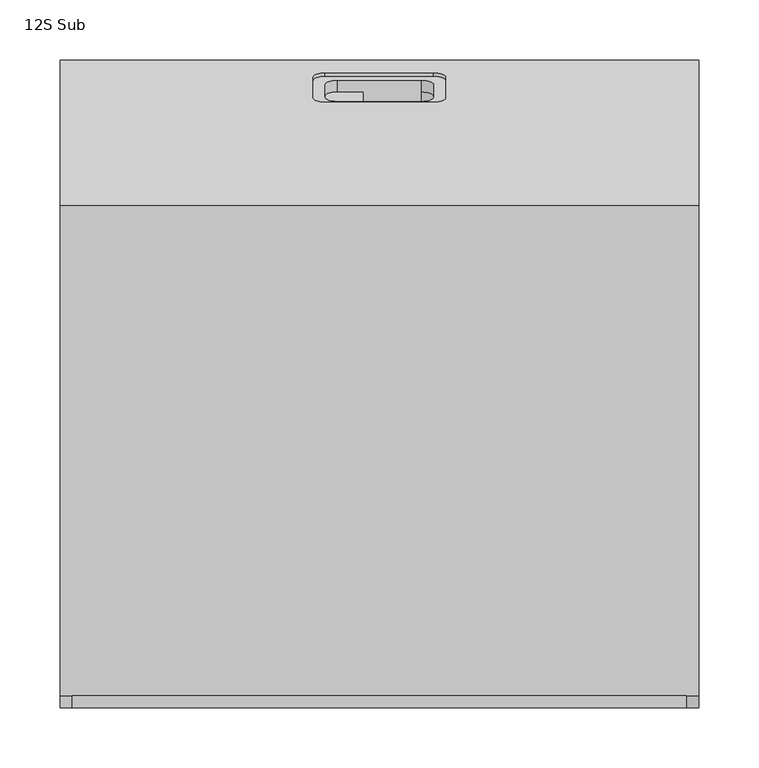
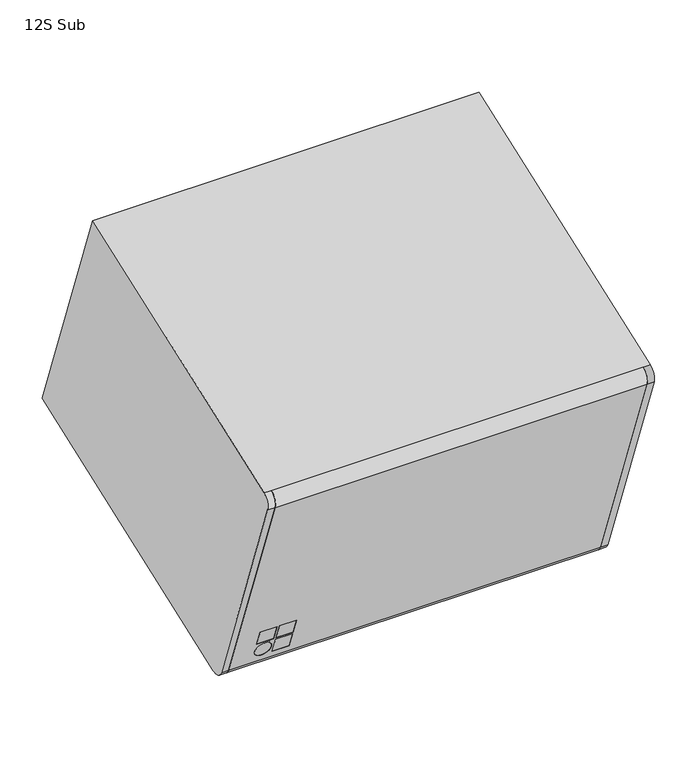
"""IFC4 building model written with IfcOpenShell, lengths in millimetres: proxy geometry, d&b xS-Series 12S Subwoofer : 12S Sub."""

from ifc_helpers import new_model, si_unit, point, frame, frame_2d, origin, place, context, project, spatial, polyline, circle_curve, trimmed, segment, composite_curve, outline, extrude, source, transform, mapped, element, save
from ifc_brep_helpers import plane_surface, cylinder_surface, revolved_surface, advanced_brep


def proxy_12s_sub_cb7f461c(model_context):
    return source(origin(), model_context, "Body", "SolidModel", [
        advanced_brep(
        [(255.0, -155.425904, -227.9030241), (255.0, -136.2002125, -236.8681112), (255.0, -137.9103132, -232.1696481), (255.0, -150.7274409, -226.1929233), (255.0, -260.857927, 76.3881006), (255.0, -254.8812023, 89.2052282), (255.0, -256.591303, 93.9036913), (255.0, -265.5563901, 74.6779998), (-255.0, -155.425904, -227.9030241), (-255.0, -265.5563901, 74.6779998), (-255.0, -256.591303, 93.9036913), (-255.0, -254.8812023, 89.2052282), (-255.0, -260.857927, 76.3881006), (-255.0, -150.7274409, -226.1929233), (-255.0, -137.9103132, -232.1696481), (-255.0, -136.2002125, -236.8681112), (-200.6666667, -175.9471126, -171.5214668), (-200.6666667, -167.9666426, -193.447628), (-224.0, -167.9666426, -193.447628), (-224.0, -175.9471126, -171.5214668), (-174.0, -175.9471126, -171.5214668), (-174.0, -167.9666426, -193.447628), (-197.3333333, -167.9666426, -193.447628), (-197.3333333, -175.9471126, -171.5214668), (-174.0, -166.8265754, -196.5799367), (-174.0, -158.8461054, -218.5060978), (-197.3333333, -158.8461054, -218.5060978), (-197.3333333, -166.8265754, -196.5799367), (-224.0, -162.8363404, -207.5430173), (-200.6666667, -162.8363404, -207.5430173), (-200.6666667, -163.2681795, -191.7375272), (-200.6666667, -171.2486495, -169.8113661), (-224.0, -171.2486495, -169.8113661), (-224.0, -163.2681795, -191.7375272), (-174.0, -163.2681795, -191.7375272), (-174.0, -171.2486495, -169.8113661), (-197.3333333, -171.2486495, -169.8113661), (-197.3333333, -163.2681795, -191.7375272), (-174.0, -154.1476423, -216.7959971), (-174.0, -162.1281123, -194.869836), (-197.3333333, -162.1281123, -194.869836), (-197.3333333, -154.1476423, -216.7959971), (-200.6666667, -158.1378773, -205.8329166), (-224.0, -158.1378773, -205.8329166)],
        [
            (0, 1, circle_curve(frame((255.0, -141.3305147, -222.7727219), z_axis=(1.0, 0.0, 0.0), x_axis=(0.0, 0.9396926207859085, 0.34202014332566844)), 15.0)),
            (1, 2),
            (2, 3, circle_curve(frame((255.0, -141.3305147, -222.7727219), z_axis=(-1.0, 0.0, 0.0), x_axis=(0.0, 0.9396926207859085, 0.34202014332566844)), 10.0)),
            (3, 4),
            (4, 5, circle_curve(frame((255.0, -251.4610008, 79.808302), z_axis=(-1.0, 0.0, 0.0), x_axis=(0.0, 0.9396926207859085, 0.34202014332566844)), 10.0)),
            (5, 6),
            (6, 7, circle_curve(frame((255.0, -251.4610008, 79.808302), z_axis=(1.0, 0.0, 0.0), x_axis=(0.0, 0.9396926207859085, 0.34202014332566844)), 15.0)),
            (7, 0),
            (8, 9),
            (9, 10, circle_curve(frame((-255.0, -251.4610008, 79.808302), z_axis=(-1.0, 0.0, 0.0), x_axis=(0.0, 0.9396926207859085, 0.34202014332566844)), 15.0)),
            (10, 11),
            (11, 12, circle_curve(frame((-255.0, -251.4610008, 79.808302), z_axis=(1.0, 0.0, 0.0), x_axis=(0.0, 0.9396926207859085, 0.34202014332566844)), 10.0)),
            (12, 13),
            (13, 14, circle_curve(frame((-255.0, -141.3305147, -222.7727219), z_axis=(1.0, 0.0, 0.0), x_axis=(0.0, 0.9396926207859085, 0.34202014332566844)), 10.0)),
            (14, 15),
            (15, 8, circle_curve(frame((-255.0, -141.3305147, -222.7727219), z_axis=(-1.0, 0.0, 0.0), x_axis=(0.0, 0.9396926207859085, 0.34202014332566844)), 15.0)),
            (6, 10),
            (9, 7),
            (8, 0),
            (16, 17),
            (17, 18),
            (18, 19),
            (19, 16),
            (20, 21),
            (21, 22),
            (22, 23),
            (23, 20),
            (24, 25),
            (25, 26),
            (26, 27),
            (27, 24),
            (28, 29, circle_curve(frame((-212.3333333, -162.8363404, -207.5430173), z_axis=(0.0, 0.9396926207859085, 0.34202014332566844), x_axis=(1.0, 0.0, 0.0)), 11.6666667)),
            (29, 28, circle_curve(frame((-212.3333333, -162.8363404, -207.5430173), z_axis=(0.0, 0.9396926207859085, 0.34202014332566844), x_axis=(1.0, 0.0, 0.0)), 11.6666667)),
            (15, 1),
            (14, 2),
            (13, 3),
            (12, 4),
            (30, 31),
            (31, 32),
            (32, 33),
            (33, 30),
            (34, 35),
            (35, 36),
            (36, 37),
            (37, 34),
            (38, 39),
            (39, 40),
            (40, 41),
            (41, 38),
            (42, 43, circle_curve(frame((-212.3333333, -158.1378773, -205.8329166), z_axis=(0.0, -0.9396926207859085, -0.34202014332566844), x_axis=(1.0, 0.0, 0.0)), 11.6666667)),
            (43, 42, circle_curve(frame((-212.3333333, -158.1378773, -205.8329166), z_axis=(0.0, -0.9396926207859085, -0.34202014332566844), x_axis=(1.0, 0.0, 0.0)), 11.6666667)),
            (11, 5),
            (16, 31),
            (30, 17),
            (33, 18),
            (32, 19),
            (20, 35),
            (34, 21),
            (37, 22),
            (36, 23),
            (24, 39),
            (38, 25),
            (41, 26),
            (40, 27),
            (28, 43),
            (42, 29),
        ],
        [
            plane_surface(frame((255.0, -127.2351254, -217.6424198), z_axis=(1.0, 0.0, 0.0), x_axis=(0.0, -0.34202014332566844, 0.9396926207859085))),
            plane_surface(frame((-255.0, -127.2351254, -217.6424198), z_axis=(-1.0, 0.0, 0.0), x_axis=(0.0, 0.34202014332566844, -0.9396926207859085))),
            cylinder_surface(frame((-255.0, -251.4610008, 79.808302), z_axis=(1.0, 0.0, 0.0), x_axis=(0.0, 0.9396926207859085, 0.34202014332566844)), 15.0),
            plane_surface(frame((255.0, -265.5563901, 74.6779998), z_axis=(0.0, -0.9396926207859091, -0.3420201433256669), x_axis=(-1.0, 0.0, 0.0))),
            cylinder_surface(frame((-255.0, -141.3305147, -222.7727219), z_axis=(1.0, 0.0, 0.0), x_axis=(0.0, 0.9396926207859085, 0.34202014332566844)), 15.0),
            plane_surface(frame((255.0, -136.2002125, -236.8681112), z_axis=(0.0, 0.9396926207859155, 0.34202014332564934), x_axis=(-1.0, 0.0, 0.0))),
            revolved_surface(polyline([(-255.0, -131.93358849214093, -219.3525204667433), (255.0, -131.93358849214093, -219.3525204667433)]), (-255.0, -141.3305147, -222.7727219), (-1.0, 0.0, 0.0)),
            plane_surface(frame((255.0, -150.7274409, -226.1929233), z_axis=(0.0, 0.9396926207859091, 0.3420201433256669), x_axis=(-1.0, 0.0, 0.0))),
            revolved_surface(polyline([(-255.0, -242.0640745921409, 83.22850343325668), (255.0, -242.0640745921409, 83.22850343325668)]), (-255.0, -251.4610008, 79.808302), (-1.0, 0.0, 0.0)),
            plane_surface(frame((255.0, -254.8812023, 89.2052282), z_axis=(0.0, 0.9396926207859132, 0.3420201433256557), x_axis=(-1.0, 0.0, 0.0))),
            plane_surface(frame((-200.6666667, -167.9666426, -193.447628), z_axis=(-1.0, 0.0, 0.0), x_axis=(0.0, 0.9396926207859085, 0.34202014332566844))),
            plane_surface(frame((-224.0, -167.9666426, -193.447628), z_axis=(0.0, -0.34202014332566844, 0.9396926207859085), x_axis=(0.0, 0.9396926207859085, 0.34202014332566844))),
            plane_surface(frame((-224.0, -175.9471126, -171.5214668), z_axis=(1.0, 0.0, 0.0), x_axis=(0.0, 0.9396926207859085, 0.34202014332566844))),
            plane_surface(frame((-200.6666667, -175.9471126, -171.5214668), z_axis=(0.0, 0.34202014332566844, -0.9396926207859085), x_axis=(0.0, 0.9396926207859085, 0.34202014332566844))),
            plane_surface(frame((-174.0, -167.9666426, -193.447628), z_axis=(-1.0, 0.0, 0.0), x_axis=(0.0, 0.9396926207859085, 0.34202014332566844))),
            plane_surface(frame((-197.3333333, -167.9666426, -193.447628), z_axis=(0.0, -0.34202014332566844, 0.9396926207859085), x_axis=(0.0, 0.9396926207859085, 0.34202014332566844))),
            plane_surface(frame((-197.3333333, -175.9471126, -171.5214668), z_axis=(1.0, 0.0, 0.0), x_axis=(0.0, 0.9396926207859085, 0.34202014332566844))),
            plane_surface(frame((-174.0, -175.9471126, -171.5214668), z_axis=(0.0, 0.34202014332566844, -0.9396926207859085), x_axis=(0.0, 0.9396926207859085, 0.34202014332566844))),
            plane_surface(frame((-174.0, -158.8461054, -218.5060978), z_axis=(-1.0, 0.0, 0.0), x_axis=(0.0, 0.9396926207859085, 0.34202014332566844))),
            plane_surface(frame((-197.3333333, -158.8461054, -218.5060978), z_axis=(0.0, -0.34202014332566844, 0.9396926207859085), x_axis=(0.0, 0.9396926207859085, 0.34202014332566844))),
            plane_surface(frame((-197.3333333, -166.8265754, -196.5799367), z_axis=(1.0, 0.0, 0.0), x_axis=(0.0, 0.9396926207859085, 0.34202014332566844))),
            plane_surface(frame((-174.0, -166.8265754, -196.5799367), z_axis=(0.0, 0.34202014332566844, -0.9396926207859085), x_axis=(0.0, 0.9396926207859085, 0.34202014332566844))),
            revolved_surface(polyline([(-200.66666659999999, -162.8363404, -207.5430173), (-200.66666659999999, -158.1378773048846, -205.83291658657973)]), (-212.3333333, -162.8363404, -207.5430173), (0.0, -0.9396926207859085, -0.34202014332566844)),
        ],
        [
            (0, [[1, 2, 3, 4, 5, 6, 7, 8]]),
            (1, [[9, 10, 11, 12, 13, 14, 15, 16]]),
            (2, [[-7, 17, -10, 18]]),
            (3, [[-8, -18, -9, 19], [20, 21, 22, 23], [24, 25, 26, 27], [28, 29, 30, 31], [32, 33]]),
            (4, [[-1, -19, -16, 34]]),
            (5, [[-2, -34, -15, 35]]),
            (6, [[-3, -35, -14, 36]]),
            (7, [[-4, -36, -13, 37], [38, 39, 40, 41], [42, 43, 44, 45], [46, 47, 48, 49], [50, 51]]),
            (8, [[-5, -37, -12, 52]]),
            (9, [[-6, -52, -11, -17]]),
            (10, [[53, -38, 54, -20]]),
            (11, [[-54, -41, 55, -21]]),
            (12, [[-55, -40, 56, -22]]),
            (13, [[-53, -23, -56, -39]]),
            (14, [[57, -42, 58, -24]]),
            (15, [[-58, -45, 59, -25]]),
            (16, [[-59, -44, 60, -26]]),
            (17, [[-57, -27, -60, -43]]),
            (18, [[61, -46, 62, -28]]),
            (19, [[-62, -49, 63, -29]]),
            (20, [[-63, -48, 64, -30]]),
            (21, [[-61, -31, -64, -47]]),
            (22, [[65, -50, 66, -32]]),
            (22, [[-65, -33, -66, -51]]),
        ],
    ),
        extrude(outline(composite_curve([segment(trimmed(circle_curve(frame_2d((0.0, -18.25)), 18.25), [point((0.0, -36.5))], [point((0.0, 0.0))], False, "CARTESIAN"), True, "CONTINUOUS"), segment(trimmed(circle_curve(frame_2d((0.0, -18.25)), 18.25), [point((0.0, 0.0))], [point((0.0, -36.5))], False, "CARTESIAN"), True, "CONTINUOUS")], self_intersect=False)), frame((-238.25, 238.4814908, -102.6234794), z_axis=(0.0, -0.34202014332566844, 0.9396926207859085), x_axis=(0.0, 0.9396926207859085, 0.34202014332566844)), (0.0, 0.0, 1.0), 2.0),
        extrude(outline(composite_curve([segment(trimmed(circle_curve(frame_2d((0.0, -458.25)), 18.25), [point((0.0, -476.5))], [point((0.0, -440.0))], False, "CARTESIAN"), True, "CONTINUOUS"), segment(trimmed(circle_curve(frame_2d((0.0, -458.25)), 18.25), [point((0.0, -440.0))], [point((0.0, -476.5))], False, "CARTESIAN"), True, "CONTINUOUS")], self_intersect=False)), frame((-238.25, 238.4814908, -102.6234794), z_axis=(0.0, -0.34202014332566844, 0.9396926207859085), x_axis=(0.0, 0.9396926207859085, 0.34202014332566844)), (0.0, 0.0, 1.0), 2.0),
        extrude(outline(composite_curve([segment(trimmed(circle_curve(frame_2d((-354.4999999, -18.25)), 18.25), [point((-354.4999999, -36.5))], [point((-354.4999999, 0.0))], False, "CARTESIAN"), True, "CONTINUOUS"), segment(trimmed(circle_curve(frame_2d((-354.4999999, -18.25)), 18.25), [point((-354.4999999, 0.0))], [point((-354.4999999, -36.5))], False, "CARTESIAN"), True, "CONTINUOUS")], self_intersect=False)), frame((-238.25, 238.4814908, -102.6234794), z_axis=(0.0, -0.34202014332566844, 0.9396926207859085), x_axis=(0.0, 0.9396926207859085, 0.34202014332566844)), (0.0, 0.0, 1.0), 2.0),
        extrude(outline(composite_curve([segment(trimmed(circle_curve(frame_2d((-354.4999999, -458.25)), 18.25), [point((-354.4999999, -476.5))], [point((-354.4999999, -440.0))], False, "CARTESIAN"), True, "CONTINUOUS"), segment(trimmed(circle_curve(frame_2d((-354.4999999, -458.25)), 18.25), [point((-354.4999999, -440.0))], [point((-354.4999999, -476.5))], False, "CARTESIAN"), True, "CONTINUOUS")], self_intersect=False)), frame((-238.25, 238.4814908, -102.6234794), z_axis=(0.0, -0.34202014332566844, 0.9396926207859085), x_axis=(0.0, 0.9396926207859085, 0.34202014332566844)), (0.0, 0.0, 1.0), 2.0),
        extrude(outline(polyline([(0.0, -23.3333333), (0.0, 0.0), (5.0, 0.0), (5.0, -23.3333333), (0.0, -23.3333333)])), frame((-224.0, -167.9666426, -193.447628), z_axis=(0.0, -0.34202014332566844, 0.9396926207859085), x_axis=(0.0, 0.9396926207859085, 0.34202014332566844)), (0.0, 0.0, 1.0), 23.3333333),
        extrude(outline(polyline([(0.0, -23.3333333), (0.0, 0.0), (5.0, 0.0), (5.0, -23.3333333), (0.0, -23.3333333)])), frame((-197.3333333, -167.9666426, -193.447628), z_axis=(0.0, -0.34202014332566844, 0.9396926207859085), x_axis=(0.0, 0.9396926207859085, 0.34202014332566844)), (0.0, 0.0, 1.0), 23.3333333),
        extrude(outline(polyline([(0.0, -23.3333333), (0.0, 0.0), (5.0, 0.0), (5.0, -23.3333333), (0.0, -23.3333333)])), frame((-197.3333333, -158.8461054, -218.5060978), z_axis=(0.0, -0.34202014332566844, 0.9396926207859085), x_axis=(0.0, 0.9396926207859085, 0.34202014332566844)), (0.0, 0.0, 1.0), 23.3333333),
        extrude(outline(composite_curve([segment(trimmed(circle_curve(frame_2d((-17.5, -38.3333334)), 11.6666667), [point((-5.8333333, -38.3333334))], [point((-29.1666666, -38.3333334))], False, "CARTESIAN"), True, "CONTINUOUS"), segment(trimmed(circle_curve(frame_2d((-17.5, -38.3333334)), 11.6666667), [point((-29.1666666, -38.3333334))], [point((-5.8333333, -38.3333334))], False, "CARTESIAN"), True, "CONTINUOUS")], self_intersect=False)), frame((-229.8333333, -175.9471126, -171.5214668), z_axis=(0.0, 0.9396926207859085, 0.34202014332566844), x_axis=(-1.0, 0.0, 0.0)), (0.0, 0.0, 1.0), 5.0),
        advanced_brep(
        [(255.0, -136.2002125, -236.8681112), (-255.0, -136.2002125, -236.8681112), (-265.0, -136.2002125, -236.8681112), (-265.0, 270.6866923, -88.7733892), (265.0, 270.6866923, -88.7733892), (265.0, -136.2002125, -236.8681112), (265.0, 150.2956018, 241.9984134), (-265.0, 150.2956018, 241.9984134), (45.0, 260.0840678, -59.6429179), (55.0, 256.6638664, -50.2459917), (55.0, 239.5628592, -3.2613607), (45.0, 236.1426578, 6.1355655), (-45.0, 236.1426578, 6.1355655), (-55.0, 239.5628592, -3.2613607), (-55.0, 256.6638664, -50.2459917), (-45.0, 260.0840678, -59.6429179), (-255.0, -256.591303, 93.9036913), (255.0, -256.591303, 93.9036913), (265.0, -256.591303, 93.9036913), (-265.0, -256.591303, 93.9036913), (-255.0, -254.8812023, 89.2052282), (255.0, -254.8812023, 89.2052282), (-255.0, -260.857927, 76.3881006), (255.0, -260.857927, 76.3881006), (-255.0, -150.7274409, -226.1929233), (255.0, -150.7274409, -226.1929233), (-255.0, -137.9103132, -232.1696481), (255.0, -137.9103132, -232.1696481), (255.0, -155.425904, -227.9030241), (255.0, -265.5563901, 74.6779998), (265.0, -265.5563901, 74.6779998), (265.0, -155.425904, -227.9030241), (-255.0, -265.5563901, 74.6779998), (-255.0, -155.425904, -227.9030241), (-265.0, -155.425904, -227.9030241), (-265.0, -265.5563901, 74.6779998), (55.0, 253.8447885, -51.2720521), (45.0, 257.26499, -60.6689783), (-45.0, 257.26499, -60.6689783), (-55.0, 253.8447885, -51.2720521), (-55.0, 236.7437814, -4.2874211), (-45.0, 233.3235799, 5.1095051), (45.0, 233.3235799, 5.1095051), (55.0, 236.7437814, -4.2874211), (35.0, 236.7437814, -4.2874211), (-35.0, 236.7437814, -4.2874211), (-45.0, 240.1639828, -13.6843473), (-45.0, 250.4245871, -41.8751259), (-35.0, 253.8447885, -51.2720521), (35.0, 253.8447885, -51.2720521), (45.0, 250.4245871, -41.8751259), (45.0, 240.1639828, -13.6843473), (-35.0, 244.4478623, -54.6922536), (-45.0, 241.0276609, -45.2953274), (-45.0, 230.7670566, -17.1045487), (-35.0, 227.3468552, -7.7076225), (-13.7960696, 227.3468552, -7.7076225), (-13.7960696, 244.4478623, -54.6922536), (35.0, 244.4478623, -54.6922536), (45.0, 241.0276609, -45.2953274), (35.0, 227.3468552, -7.7076225), (45.0, 230.7670566, -17.1045487), (-13.7960696, 194.4576134, -19.6783275), (35.0, 194.4576134, -19.6783275), (45.0, 197.8778149, -29.0752537), (45.0, 208.1384192, -57.2660324), (35.0, 211.5586206, -66.6629586), (-13.7960696, 211.5586206, -66.6629586)],
        [
            (0, 1),
            (1, 2),
            (2, 3),
            (3, 4),
            (4, 5),
            (5, 0),
            (6, 4),
            (3, 7),
            (7, 6),
            (8, 9, circle_curve(frame((45.0, 256.6638664, -50.2459917), z_axis=(0.0, -0.9396926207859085, -0.34202014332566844), x_axis=(-1.0, 0.0, 0.0)), 10.0)),
            (9, 10),
            (10, 11, circle_curve(frame((45.0, 239.5628592, -3.2613607), z_axis=(0.0, -0.9396926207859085, -0.34202014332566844), x_axis=(-1.0, 0.0, 0.0)), 10.0)),
            (11, 12),
            (12, 13, circle_curve(frame((-45.0, 239.5628592, -3.2613607), z_axis=(0.0, -0.9396926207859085, -0.34202014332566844), x_axis=(-1.0, 0.0, 0.0)), 10.0)),
            (13, 14),
            (14, 15, circle_curve(frame((-45.0, 256.6638664, -50.2459917), z_axis=(0.0, -0.9396926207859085, -0.34202014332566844), x_axis=(-1.0, 0.0, 0.0)), 10.0)),
            (15, 8),
            (16, 17),
            (17, 18),
            (18, 6),
            (7, 19),
            (19, 16),
            (16, 20),
            (20, 21),
            (21, 17),
            (20, 22, circle_curve(frame((-255.0, -251.4610008, 79.808302), z_axis=(1.0, 0.0, 0.0), x_axis=(0.0, 0.9396926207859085, 0.34202014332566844)), 10.0)),
            (22, 23),
            (23, 21, circle_curve(frame((255.0, -251.4610008, 79.808302), z_axis=(-1.0, 0.0, 0.0), x_axis=(0.0, 0.9396926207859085, 0.34202014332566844)), 10.0)),
            (22, 24),
            (24, 25),
            (25, 23),
            (24, 26, circle_curve(frame((-255.0, -141.3305147, -222.7727219), z_axis=(1.0, 0.0, 0.0), x_axis=(0.0, 0.9396926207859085, 0.34202014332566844)), 10.0)),
            (26, 27),
            (27, 25, circle_curve(frame((255.0, -141.3305147, -222.7727219), z_axis=(-1.0, 0.0, 0.0), x_axis=(0.0, 0.9396926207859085, 0.34202014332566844)), 10.0)),
            (0, 27),
            (26, 1),
            (0, 28, circle_curve(frame((255.0, -141.3305147, -222.7727219), z_axis=(-1.0, 0.0, 0.0), x_axis=(0.0, 0.9396926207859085, 0.34202014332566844)), 15.0)),
            (28, 29),
            (29, 17, circle_curve(frame((255.0, -251.4610008, 79.808302), z_axis=(-1.0, 0.0, 0.0), x_axis=(0.0, 0.9396926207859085, 0.34202014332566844)), 15.0)),
            (18, 30, circle_curve(frame((265.0, -251.4610008, 79.808302), z_axis=(1.0, 0.0, 0.0), x_axis=(0.0, 0.9396926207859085, 0.34202014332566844)), 15.0)),
            (30, 31),
            (31, 5, circle_curve(frame((265.0, -141.3305147, -222.7727219), z_axis=(1.0, 0.0, 0.0), x_axis=(0.0, 0.9396926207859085, 0.34202014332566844)), 15.0)),
            (29, 30),
            (28, 31),
            (16, 32, circle_curve(frame((-255.0, -251.4610008, 79.808302), z_axis=(1.0, 0.0, 0.0), x_axis=(0.0, 0.9396926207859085, 0.34202014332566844)), 15.0)),
            (32, 33),
            (33, 1, circle_curve(frame((-255.0, -141.3305147, -222.7727219), z_axis=(1.0, 0.0, 0.0), x_axis=(0.0, 0.9396926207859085, 0.34202014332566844)), 15.0)),
            (2, 34, circle_curve(frame((-265.0, -141.3305147, -222.7727219), z_axis=(-1.0, 0.0, 0.0), x_axis=(0.0, 0.9396926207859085, 0.34202014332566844)), 15.0)),
            (34, 35),
            (35, 19, circle_curve(frame((-265.0, -251.4610008, 79.808302), z_axis=(-1.0, 0.0, 0.0), x_axis=(0.0, 0.9396926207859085, 0.34202014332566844)), 15.0)),
            (35, 32),
            (34, 33),
            (36, 37, circle_curve(frame((45.0, 253.8447885, -51.2720521), z_axis=(0.0, 0.9396926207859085, 0.34202014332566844), x_axis=(-1.0, 0.0, 0.0)), 10.0)),
            (37, 38),
            (38, 39, circle_curve(frame((-45.0, 253.8447885, -51.2720521), z_axis=(0.0, 0.9396926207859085, 0.34202014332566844), x_axis=(-1.0, 0.0, 0.0)), 10.0)),
            (39, 40),
            (40, 41, circle_curve(frame((-45.0, 236.7437814, -4.2874211), z_axis=(0.0, 0.9396926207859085, 0.34202014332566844), x_axis=(-1.0, 0.0, 0.0)), 10.0)),
            (41, 42),
            (42, 43, circle_curve(frame((45.0, 236.7437814, -4.2874211), z_axis=(0.0, 0.9396926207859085, 0.34202014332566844), x_axis=(-1.0, 0.0, 0.0)), 10.0)),
            (43, 36),
            (44, 45),
            (45, 46, circle_curve(frame((-35.0, 240.1639828, -13.6843473), z_axis=(0.0, -0.9396926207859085, -0.34202014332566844), x_axis=(-1.0, 0.0, 0.0)), 10.0)),
            (46, 47),
            (47, 48, circle_curve(frame((-35.0, 250.4245871, -41.8751259), z_axis=(0.0, -0.9396926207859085, -0.34202014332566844), x_axis=(-1.0, 0.0, 0.0)), 10.0)),
            (48, 49),
            (49, 50, circle_curve(frame((35.0, 250.4245871, -41.8751259), z_axis=(0.0, -0.9396926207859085, -0.34202014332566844), x_axis=(-1.0, 0.0, 0.0)), 10.0)),
            (50, 51),
            (51, 44, circle_curve(frame((35.0, 240.1639828, -13.6843473), z_axis=(0.0, -0.9396926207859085, -0.34202014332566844), x_axis=(-1.0, 0.0, 0.0)), 10.0)),
            (36, 9),
            (8, 37),
            (15, 38),
            (14, 39),
            (13, 40),
            (12, 41),
            (11, 42),
            (10, 43),
            (52, 53, circle_curve(frame((-35.0, 241.0276609, -45.2953274), z_axis=(0.0, 0.9396926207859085, 0.34202014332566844), x_axis=(-1.0, 0.0, 0.0)), 10.0)),
            (53, 54),
            (54, 55, circle_curve(frame((-35.0, 230.7670566, -17.1045487), z_axis=(0.0, 0.9396926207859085, 0.34202014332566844), x_axis=(-1.0, 0.0, 0.0)), 10.0)),
            (55, 56),
            (56, 57),
            (57, 52),
            (54, 46),
            (45, 55),
            (53, 47),
            (52, 48),
            (49, 58),
            (58, 59, circle_curve(frame((35.0, 241.0276609, -45.2953274), z_axis=(0.0, -0.9396926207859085, -0.34202014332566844), x_axis=(-1.0, 0.0, 0.0)), 10.0)),
            (59, 50),
            (60, 44),
            (51, 61),
            (61, 60, circle_curve(frame((35.0, 230.7670566, -17.1045487), z_axis=(0.0, -0.9396926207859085, -0.34202014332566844), x_axis=(-1.0, 0.0, 0.0)), 10.0)),
            (62, 63),
            (63, 64, circle_curve(frame((35.0, 197.8778149, -29.0752537), z_axis=(0.0, 0.9396926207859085, 0.34202014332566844), x_axis=(-1.0, 0.0, 0.0)), 10.0)),
            (64, 65),
            (65, 66, circle_curve(frame((35.0, 208.1384192, -57.2660324), z_axis=(0.0, 0.9396926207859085, 0.34202014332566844), x_axis=(-1.0, 0.0, 0.0)), 10.0)),
            (66, 67),
            (67, 62),
            (67, 57),
            (56, 62),
            (60, 63),
            (61, 64),
            (59, 65),
            (58, 66),
        ],
        [
            plane_surface(frame((255.0, -136.2002125, -236.8681112), z_axis=(0.0, 0.3420201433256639, -0.9396926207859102), x_axis=(-1.0, 0.0, 0.0))),
            plane_surface(frame((255.0, 270.6866923, -88.7733892), z_axis=(0.0, 0.9396926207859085, 0.34202014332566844), x_axis=(-1.0, 0.0, 0.0))),
            plane_surface(frame((255.0, 150.2956018, 241.9984134), z_axis=(0.0, -0.34202014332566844, 0.9396926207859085), x_axis=(-1.0, 0.0, 0.0))),
            plane_surface(frame((255.0, -256.591303, 93.9036913), z_axis=(0.0, -0.9396926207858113, -0.34202014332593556), x_axis=(-1.0, 0.0, 0.0))),
            cylinder_surface(frame((-255.0, -251.4610008, 79.808302), z_axis=(1.0, 0.0, 0.0), x_axis=(0.0, 0.9396926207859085, 0.34202014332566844)), 10.0),
            plane_surface(frame((255.0, -260.857927, 76.3881006), z_axis=(0.0, -0.9396926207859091, -0.34202014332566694), x_axis=(-1.0, 0.0, 0.0))),
            cylinder_surface(frame((-255.0, -141.3305147, -222.7727219), z_axis=(1.0, 0.0, 0.0), x_axis=(0.0, 0.9396926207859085, 0.34202014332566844)), 10.0),
            plane_surface(frame((255.0, -137.9103132, -232.1696481), z_axis=(0.0, -0.9396926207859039, -0.34202014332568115), x_axis=(-1.0, 0.0, 0.0))),
            plane_surface(frame((255.0, 189.2928456, 256.1922493), z_axis=(-1.0, 0.0, 0.0), x_axis=(0.0, 0.9396926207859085, 0.34202014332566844))),
            plane_surface(frame((265.0, 189.2928456, 256.1922493), z_axis=(1.0, 0.0, 0.0), x_axis=(0.0, -0.9396926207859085, -0.34202014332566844))),
            cylinder_surface(frame((265.0, -251.4610008, 79.808302), z_axis=(-1.0, 0.0, 0.0), x_axis=(0.0, 0.9396926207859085, 0.34202014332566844)), 15.0),
            plane_surface(frame((255.0, -155.425904, -227.9030241), z_axis=(0.0, -0.9396926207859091, -0.3420201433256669), x_axis=(1.0, 0.0, 0.0))),
            cylinder_surface(frame((265.0, -141.3305147, -222.7727219), z_axis=(-1.0, 0.0, 0.0), x_axis=(0.0, 0.9396926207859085, 0.34202014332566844)), 15.0),
            plane_surface(frame((-255.0, -237.3656115, 84.9386041), z_axis=(1.0, 0.0, 0.0), x_axis=(0.0, -0.34202014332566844, 0.9396926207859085))),
            plane_surface(frame((-265.0, -237.3656115, 84.9386041), z_axis=(-1.0, 0.0, 0.0), x_axis=(0.0, 0.34202014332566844, -0.9396926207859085))),
            cylinder_surface(frame((-265.0, -251.4610008, 79.808302), z_axis=(1.0, 0.0, 0.0), x_axis=(0.0, 0.9396926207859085, 0.34202014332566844)), 15.0),
            plane_surface(frame((-255.0, -265.5563901, 74.6779998), z_axis=(0.0, -0.9396926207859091, -0.3420201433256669), x_axis=(-1.0, 0.0, 0.0))),
            cylinder_surface(frame((-265.0, -141.3305147, -222.7727219), z_axis=(1.0, 0.0, 0.0), x_axis=(0.0, 0.9396926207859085, 0.34202014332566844)), 15.0),
            plane_surface(frame((35.0, 253.8447885, -51.2720521), z_axis=(0.0, 0.9396926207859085, 0.34202014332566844), x_axis=(0.0, 0.34202014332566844, -0.9396926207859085))),
            revolved_surface(polyline([(35.0, 256.6638663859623, -50.24599166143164), (35.0, 253.8447885, -51.2720521)]), (45.0, 253.8447885, -51.2720521), (0.0, 0.9396926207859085, 0.34202014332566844)),
            plane_surface(frame((45.0, 260.0840678, -59.6429179), z_axis=(0.0, -0.34202014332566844, 0.9396926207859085), x_axis=(0.0, -0.9396926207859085, -0.34202014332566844))),
            revolved_surface(polyline([(-55.0, 256.6638663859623, -50.24599166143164), (-55.0, 253.8447885, -51.2720521)]), (-45.0, 253.8447885, -51.2720521), (0.0, 0.9396926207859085, 0.34202014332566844)),
            plane_surface(frame((-55.0, 256.6638664, -50.2459917), z_axis=(1.0, 0.0, 0.0), x_axis=(0.0, -0.9396926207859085, -0.34202014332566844))),
            revolved_surface(polyline([(-55.0, 239.56285922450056, -3.261360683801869), (-55.0, 236.7437813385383, -4.287421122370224)]), (-45.0, 236.7437814, -4.2874211), (0.0, 0.9396926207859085, 0.34202014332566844)),
            plane_surface(frame((-45.0, 236.1426578, 6.1355655), z_axis=(0.0, 0.34202014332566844, -0.9396926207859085), x_axis=(0.0, -0.9396926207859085, -0.34202014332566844))),
            revolved_surface(polyline([(35.0, 239.56285922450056, -3.261360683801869), (35.0, 236.7437813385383, -4.287421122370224)]), (45.0, 236.7437814, -4.2874211), (0.0, 0.9396926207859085, 0.34202014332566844)),
            plane_surface(frame((55.0, 239.5628592, -3.2613607), z_axis=(-1.0, 0.0, 0.0), x_axis=(0.0, -0.9396926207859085, -0.34202014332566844))),
            plane_surface(frame((25.0, 230.7670566, -17.1045487), z_axis=(0.0, 0.9396926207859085, 0.34202014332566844), x_axis=(0.0, 0.34202014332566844, -0.9396926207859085))),
            revolved_surface(polyline([(-45.0, 240.16398281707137, -13.684347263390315), (-45.0, 230.7670566, -17.1045487)]), (-35.0, 230.7670566, -17.1045487), (0.0, 0.9396926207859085, 0.34202014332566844)),
            plane_surface(frame((-45.0, 250.4245871, -41.8751259), z_axis=(1.0, 0.0, 0.0), x_axis=(0.0, -0.9396926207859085, -0.34202014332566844))),
            revolved_surface(polyline([(-45.0, 250.4245871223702, -41.87512596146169), (-45.0, 241.02766087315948, -45.29532740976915)]), (-35.0, 241.0276609, -45.2953274), (0.0, 0.9396926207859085, 0.34202014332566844)),
            revolved_surface(polyline([(25.0, 250.4245871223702, -41.87512596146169), (25.0, 241.02766087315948, -45.29532740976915)]), (35.0, 241.0276609, -45.2953274), (0.0, 0.9396926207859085, 0.34202014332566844)),
            revolved_surface(polyline([(25.0, 240.16398281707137, -13.684347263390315), (25.0, 230.7670566, -17.1045487)]), (35.0, 230.7670566, -17.1045487), (0.0, 0.9396926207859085, 0.34202014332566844)),
            plane_surface(frame((35.0, 194.4576134, -19.6783275), z_axis=(0.0, 0.9396926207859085, 0.34202014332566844), x_axis=(-1.0, 0.0, 0.0))),
            plane_surface(frame((-13.7960696, 244.4478623, -54.6922536), z_axis=(1.0, 0.0, 0.0), x_axis=(0.0, -0.9396926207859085, -0.34202014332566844))),
            plane_surface(frame((-13.7960696, 227.3468552, -7.7076225), z_axis=(0.0, 0.34202014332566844, -0.9396926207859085), x_axis=(0.0, -0.9396926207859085, -0.34202014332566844))),
            revolved_surface(polyline([(25.0, 230.76705662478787, -17.104548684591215), (25.0, 197.8778148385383, -29.075253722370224)]), (35.0, 197.8778149, -29.0752537), (0.0, 0.9396926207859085, 0.34202014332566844)),
            plane_surface(frame((45.0, 230.7670566, -17.1045487), z_axis=(-1.0, 0.0, 0.0), x_axis=(0.0, -0.9396926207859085, -0.34202014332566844))),
            revolved_surface(polyline([(25.0, 241.02766089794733, -45.29532739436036), (25.0, 208.1384191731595, -57.266032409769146)]), (35.0, 208.1384192, -57.2660324), (0.0, 0.9396926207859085, 0.34202014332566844)),
            plane_surface(frame((35.0, 244.4478623, -54.6922536), z_axis=(0.0, -0.34202014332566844, 0.9396926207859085), x_axis=(0.0, -0.9396926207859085, -0.34202014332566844))),
        ],
        [
            (0, [[1, 2, 3, 4, 5, 6]]),
            (1, [[7, -4, 8, 9], [10, 11, 12, 13, 14, 15, 16, 17]]),
            (2, [[18, 19, 20, -9, 21, 22]]),
            (3, [[-18, 23, 24, 25]]),
            (4, [[-24, 26, 27, 28]]),
            (5, [[-27, 29, 30, 31]]),
            (6, [[-30, 32, 33, 34]]),
            (7, [[-1, 35, -33, 36]]),
            (8, [[37, 38, 39, -25, -28, -31, -34, -35]]),
            (9, [[40, 41, 42, -5, -7, -20]]),
            (10, [[-39, 43, -40, -19]]),
            (11, [[-38, 44, -41, -43]]),
            (12, [[-37, -6, -42, -44]]),
            (13, [[45, 46, 47, -36, -32, -29, -26, -23]]),
            (14, [[-21, -8, -3, 48, 49, 50]]),
            (15, [[-45, -22, -50, 51]]),
            (16, [[-46, -51, -49, 52]]),
            (17, [[-47, -52, -48, -2]]),
            (18, [[53, 54, 55, 56, 57, 58, 59, 60], [61, 62, 63, 64, 65, 66, 67, 68]]),
            (19, [[-53, 69, -10, 70]]),
            (20, [[-54, -70, -17, 71]]),
            (21, [[-55, -71, -16, 72]]),
            (22, [[-56, -72, -15, 73]]),
            (23, [[-57, -73, -14, 74]]),
            (24, [[-58, -74, -13, 75]]),
            (25, [[-59, -75, -12, 76]]),
            (26, [[-60, -76, -11, -69]]),
            (27, [[77, 78, 79, 80, 81, 82]]),
            (28, [[-79, 83, -62, 84]]),
            (29, [[-78, 85, -63, -83]]),
            (30, [[-77, 86, -64, -85]]),
            (31, [[87, 88, 89, -66]]),
            (32, [[90, -68, 91, 92]]),
            (33, [[93, 94, 95, 96, 97, 98]]),
            (34, [[-98, 99, -81, 100]]),
            (35, [[-93, -100, -80, -84, -61, -90, 101]]),
            (36, [[-94, -101, -92, 102]]),
            (37, [[-95, -102, -91, -67, -89, 103]]),
            (38, [[-96, -103, -88, 104]]),
            (39, [[-97, -104, -87, -65, -86, -82, -99]]),
        ],
    ),
    ])


if __name__ == "__main__":
    model = new_model("IFC4")
    model_context = context("Model", 3, world=origin())
    ifc_project = project(units=[si_unit("LENGTHUNIT", "METRE", prefix="MILLI")], contexts=[model_context])
    site = spatial("IfcSite", under=ifc_project)
    building = spatial("IfcBuilding", under=site)
    placement = place(None, origin())
    proxy_12s_sub_shape = proxy_12s_sub_cb7f461c(model_context)
    element("IfcBuildingElementProxy", 1, Name="d&b xS-Series 12S Subwoofer : 12S Sub", ObjectType="d&b xS-Series 12S Subwoofer : 12S Sub", at=placement, inside=building, context=model_context, shape_type="MappedRepresentation", body=[
        mapped(proxy_12s_sub_shape, transform((0.0, 0.0, 0.0), x_axis=(1.0, 0.0, 0.0), y_axis=(0.0, 1.0, 0.0), z_axis=(0.0, 0.0, 1.0))),
    ])
    save(model, "model.ifc")
